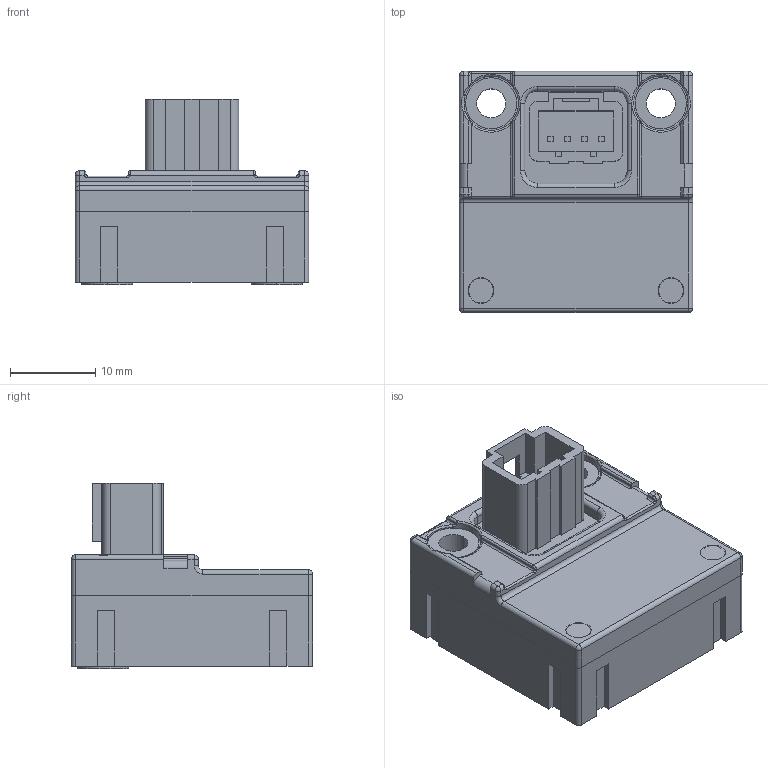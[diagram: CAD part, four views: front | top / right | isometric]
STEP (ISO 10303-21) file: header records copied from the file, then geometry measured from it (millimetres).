
FILE_DESCRIPTION((''),'2;1');
FILE_NAME('0000109335_ASM','2016-04-26T',('11000535'),(''),'PRO/ENGINEER BY PARAMETRIC TECHNOLOGY CORPORATION, 2014090','PRO/ENGINEER BY PARAMETRIC TECHNOLOGY CORPORATION, 2014090','');
FILE_SCHEMA(('AUTOMOTIVE_DESIGN { 1 0 10303 214 1 1 1 1 }'));
Length unit declared in the file: millimetre
Products named in the file (6): 0000063760; 0000064006; 0000063833; 0000064111; 0000109342; 0000109335_ASM
Assembly tree (6 placements, depth 2):
  0000109335_ASM
    0000063760
    0000064006
    0000063833  x2
    0000064111
    0000109342
Bounding box: 27.4 x 28.3 x 21.75 mm (x, y, z)
Volume: 8657.1 mm3; surface area: 9796.2 mm2
Topology: 6 solids, 6 shells, 544 faces, 1426 edges, 910 vertices
Faces by surface type: plane 272, cylinder 180, torus 36, bspline 26, cone 16, sphere 14
Entity records: 25660 total; most frequent: CARTESIAN_POINT 4815, DIRECTION 2810, ORIENTED_EDGE 2780, PRESENTATION_STYLE_ASSIGNMENT 1395, STYLED_ITEM 1395, CURVE_STYLE 1390, EDGE_CURVE 1390, AXIS2_PLACEMENT_3D 964
